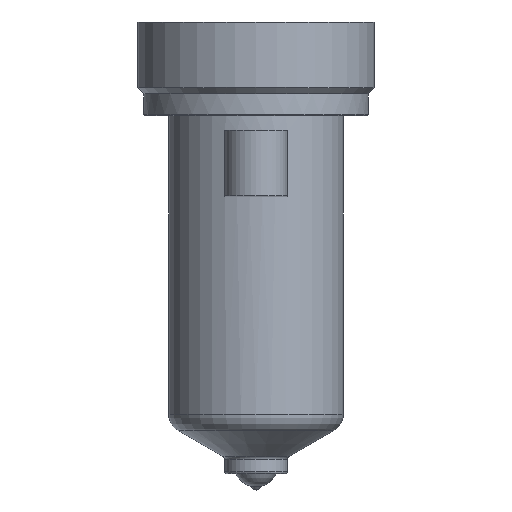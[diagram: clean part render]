
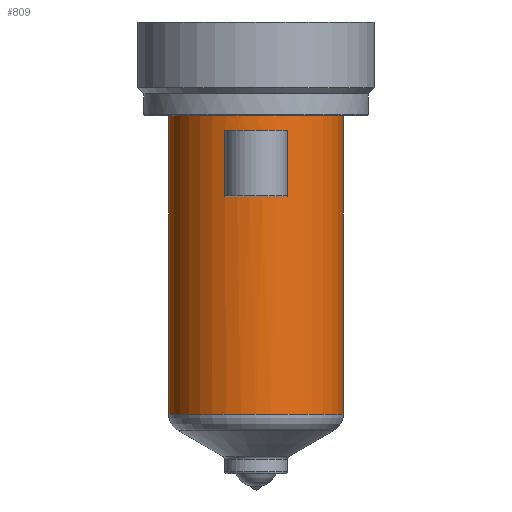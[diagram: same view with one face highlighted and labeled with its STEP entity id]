
A CAD part, top view. The second image highlights one B-rep face of the part: STEP entity #809.
In plain terms, the highlighted cylindrical face has radius 14 mm (diameter 28 mm), a partial arc.
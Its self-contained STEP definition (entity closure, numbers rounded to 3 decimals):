
#195=DIRECTION('',(0.,-1.,0.));
#196=VECTOR('',#195,47.893);
#197=CARTESIAN_POINT('',(14.,0.,0.));
#198=LINE('',#197,#196);
#199=CARTESIAN_POINT('',(0.,-47.893,0.));
#200=DIRECTION('',(0.,1.,0.));
#201=DIRECTION('',(-1.,0.,0.));
#202=AXIS2_PLACEMENT_3D('',#199,#200,#201);
#204=DIRECTION('',(0.,1.,0.));
#205=VECTOR('',#204,47.893);
#206=CARTESIAN_POINT('',(-14.,-47.893,0.));
#207=LINE('',#206,#205);
#208=CARTESIAN_POINT('',(0.,0.,0.));
#209=DIRECTION('',(0.,1.,0.));
#210=DIRECTION('',(-1.,0.,0.));
#211=AXIS2_PLACEMENT_3D('',#208,#209,#210);
#375=DIRECTION('',(0.,-1.,0.));
#376=VECTOR('',#375,10.5);
#377=CARTESIAN_POINT('',(-5.,-2.5,13.077));
#378=LINE('',#377,#376);
#383=CARTESIAN_POINT('',(0.,-13.,0.));
#384=DIRECTION('',(0.,1.,0.));
#385=DIRECTION('',(-0.357,0.,0.934));
#386=AXIS2_PLACEMENT_3D('',#383,#384,#385);
#418=CARTESIAN_POINT('',(0.,-2.5,0.));
#419=DIRECTION('',(0.,-1.,0.));
#420=DIRECTION('',(0.357,0.,0.934));
#421=AXIS2_PLACEMENT_3D('',#418,#419,#420);
#423=DIRECTION('',(0.,-1.,0.));
#424=VECTOR('',#423,10.5);
#425=CARTESIAN_POINT('',(5.,-2.5,13.077));
#426=LINE('',#425,#424);
#484=CARTESIAN_POINT('',(-14.,0.,0.));
#485=CARTESIAN_POINT('',(14.,0.,0.));
#486=VERTEX_POINT('',#484);
#487=VERTEX_POINT('',#485);
#496=CARTESIAN_POINT('',(5.,-2.5,13.077));
#497=VERTEX_POINT('',#496);
#498=CARTESIAN_POINT('',(-5.,-2.5,13.077));
#499=VERTEX_POINT('',#498);
#536=CARTESIAN_POINT('',(14.,-47.893,0.));
#537=VERTEX_POINT('',#536);
#546=CARTESIAN_POINT('',(-14.,-47.893,0.));
#547=VERTEX_POINT('',#546);
#568=CARTESIAN_POINT('',(-5.,-13.,13.077));
#569=CARTESIAN_POINT('',(5.,-13.,13.077));
#570=VERTEX_POINT('',#568);
#571=VERTEX_POINT('',#569);
#787=CARTESIAN_POINT('',(0.,16.4,0.));
#788=DIRECTION('',(0.,-1.,0.));
#789=DIRECTION('',(-1.,0.,0.));
#790=AXIS2_PLACEMENT_3D('',#787,#788,#789);
#791=CYLINDRICAL_SURFACE('',#790,14.);
#792=ORIENTED_EDGE('',*,*,#781,.T.);
#794=ORIENTED_EDGE('',*,*,#793,.F.);
#795=ORIENTED_EDGE('',*,*,#777,.T.);
#796=ORIENTED_EDGE('',*,*,#767,.T.);
#797=EDGE_LOOP('',(#792,#794,#795,#796));
#798=FACE_OUTER_BOUND('',#797,.F.);
#800=ORIENTED_EDGE('',*,*,#799,.T.);
#802=ORIENTED_EDGE('',*,*,#801,.T.);
#804=ORIENTED_EDGE('',*,*,#803,.F.);
#806=ORIENTED_EDGE('',*,*,#805,.T.);
#807=EDGE_LOOP('',(#800,#802,#804,#806));
#808=FACE_BOUND('',#807,.F.);
#809=ADVANCED_FACE('',(#798,#808),#791,.T.);
#203=CIRCLE('',#202,14.);
#212=CIRCLE('',#211,14.);
#387=CIRCLE('',#386,14.);
#422=CIRCLE('',#421,14.);
#767=EDGE_CURVE('',#486,#487,#212,.T.);
#777=EDGE_CURVE('',#547,#486,#207,.T.);
#781=EDGE_CURVE('',#487,#537,#198,.T.);
#793=EDGE_CURVE('',#547,#537,#203,.T.);
#799=EDGE_CURVE('',#499,#570,#378,.T.);
#801=EDGE_CURVE('',#570,#571,#387,.T.);
#803=EDGE_CURVE('',#497,#571,#426,.T.);
#805=EDGE_CURVE('',#497,#499,#422,.T.);
